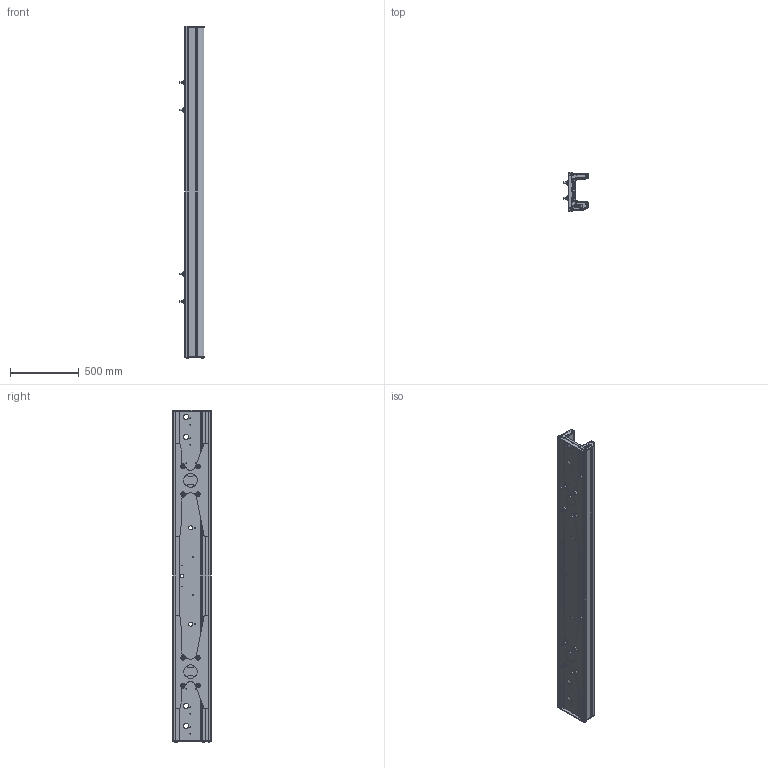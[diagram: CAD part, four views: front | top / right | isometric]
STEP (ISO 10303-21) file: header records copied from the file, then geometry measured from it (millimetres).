
FILE_DESCRIPTION(('CATIA V5 STEP Exchange','CAx-IF Rec.Pracs.--- Model Styling and Organization---1.5--- 2016-08-15','CAx-IF Rec.Pracs.---Supplemental Geometry---1.0---2011-11-01','CAx-IF Rec.Pracs.--- Composite Materials ---1.1---2010-07-15'),'2;1');
FILE_NAME('L:\Florian\data\For Melten\340384-03.stp','2024-01-10T13:18:43+00:00',('none'),('none'),'CATIA Version 5-6 Release 2020 SP3 HF39','CATIA V5 STEP AP203 Edition 2 v2','none');
FILE_SCHEMA(('AP203_CONFIGURATION_CONTROLLED_3D_DESIGN_OF_MECHANICAL_PARTS_AND_ASSEMBLIES_MIM_LF { 1 0 10303 403 3 1 4}'));
Products named in the file (1): 340384-03
Bounding box: 177 x 283.4 x 2412.4 mm (x, y, z)
Volume: 13593038.9 mm3; surface area: 5361509.8 mm2
Topology: 3 solids, 9 shells, 2178 faces, 5968 edges, 3906 vertices
Faces by surface type: cylinder 1044, plane 554, cone 298, torus 182, extrusion 72, bspline 28
Entity records: 75499 total; most frequent: CARTESIAN_POINT 23706, ORIENTED_EDGE 11904, DIRECTION 8467, EDGE_CURVE 5952, AXIS2_PLACEMENT_3D 4175, VERTEX_POINT 3906, EDGE_LOOP 2366, VECTOR 2349
